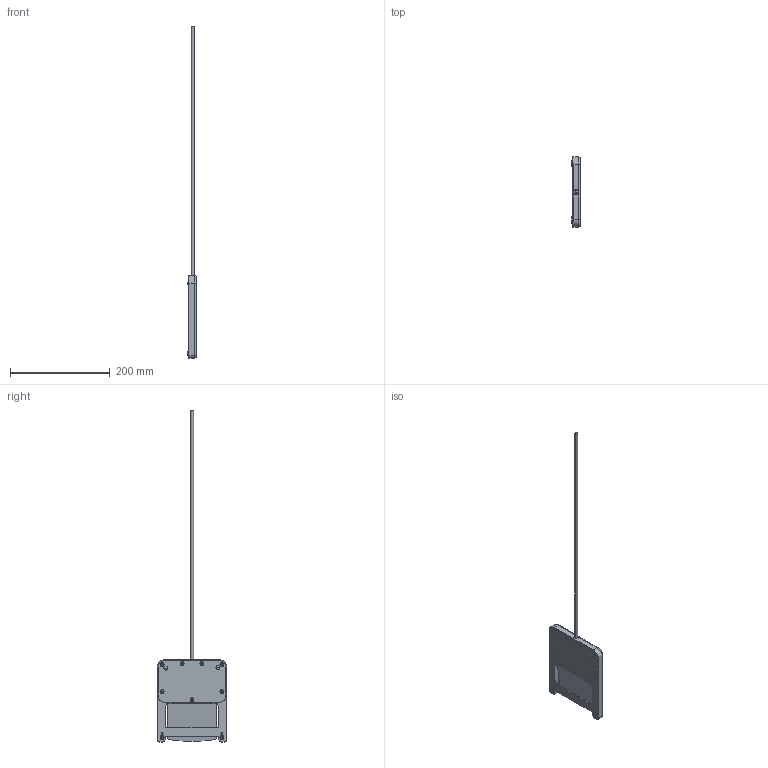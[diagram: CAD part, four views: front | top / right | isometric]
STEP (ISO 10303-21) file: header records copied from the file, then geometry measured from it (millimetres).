
FILE_DESCRIPTION (( 'STEP AP203' ), '1' );
FILE_NAME ('a10304-emoswitch-cs.STEP', '2021-08-16T13:17:50', ( '' ), ( '' ), 'SwSTEP 2.0', 'SolidWorks 2018', '' );
FILE_SCHEMA (( 'CONFIG_CONTROL_DESIGN' ));
Length unit declared in the file: millimetre
Products named in the file (1): a10304-emoswitch-cs
Bounding box: 17.5 x 140 x 665 mm (x, y, z)
Surface area: 98309.1 mm2 (no closed solid volume)
Topology: 0 solids, 39 shells, 548 faces, 1326 edges, 846 vertices
Faces by surface type: plane 241, cylinder 194, cone 87, torus 16, sphere 6, bspline 4
Entity records: 17713 total; most frequent: CARTESIAN_POINT 5005, DIRECTION 2622, ORIENTED_EDGE 2544, EDGE_CURVE 1312, AXIS2_PLACEMENT_3D 951, VERTEX_POINT 842, VECTOR 720, LINE 720
